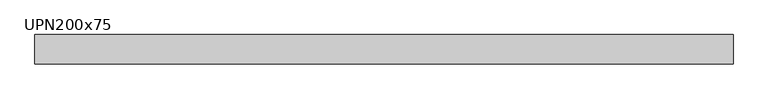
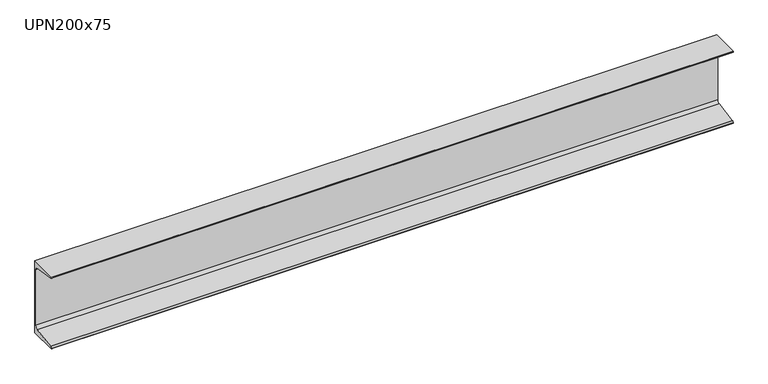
"""IFC4 building model written with IfcOpenShell, lengths in millimetres: beam geometry, M_MC Shapes : UPN200x75."""

from ifc_helpers import new_model, si_unit, point, frame, frame_2d, origin, place, context, project, spatial, polyline, circle_curve, trimmed, segment, composite_curve, outline, extrude, source, transform, mapped, element, save


def upn200x75_6adde346(model_context):
    return source(origin(), model_context, "Body", "SweptSolid", [
        extrude(outline(composite_curve([segment(polyline([(10.9, 100.0), (10.9, -100.0), (-64.1, -100.0), (-64.1, -99.0253247)]), True, "CONTINUOUS"), segment(trimmed(circle_curve(frame_2d((-60.15, -99.0253247)), 3.95), [point((-64.1, -99.0253247))], [point((-60.7993773, -95.1290689))], False, "CARTESIAN"), True, "CONTINUOUS"), segment(polyline([(-60.7993773, -95.1290689), (-0.2512455, -85.0376935)]), True, "CONTINUOUS"), segment(trimmed(circle_curve(frame_2d((-1.55, -77.2451819)), 7.9), [point((-0.2512455, -85.0376935))], [point((6.35, -77.2451819))], True, "CARTESIAN"), True, "CONTINUOUS"), segment(polyline([(6.35, -77.2451819), (6.35, 77.2451819)]), True, "CONTINUOUS"), segment(trimmed(circle_curve(frame_2d((-1.55, 77.2451819)), 7.9), [point((6.35, 77.2451819))], [point((-0.2512455, 85.0376935))], True, "CARTESIAN"), True, "CONTINUOUS"), segment(polyline([(-0.2512455, 85.0376935), (-60.7993773, 95.1290689)]), True, "CONTINUOUS"), segment(trimmed(circle_curve(frame_2d((-60.15, 99.0253247)), 3.95), [point((-60.7993773, 95.1290689))], [point((-64.1, 99.0253247))], False, "CARTESIAN"), True, "CONTINUOUS"), segment(polyline([(-64.1, 99.0253247), (-64.1, 100.0), (10.9, 100.0)]), True, "CONTINUOUS")], self_intersect=False)), frame((-934.85, 0.0, 0.0), z_axis=(1.0, 0.0, 0.0), x_axis=(0.0, 1.0, 0.0)), (0.0, 0.0, 1.0), 1794.2),
    ])


if __name__ == "__main__":
    model = new_model("IFC4")
    model_context = context("Model", 3, world=origin())
    ifc_project = project(units=[si_unit("LENGTHUNIT", "METRE", prefix="MILLI")], contexts=[model_context])
    site = spatial("IfcSite", under=ifc_project)
    building = spatial("IfcBuilding", under=site)
    placement = place(None, origin())
    upn200x75_shape = upn200x75_6adde346(model_context)
    element("IfcBeam", 1, ObjectType="M_MC Shapes : UPN200x75", at=placement, inside=building, context=model_context, shape_type="MappedRepresentation", body=[
        mapped(upn200x75_shape, transform((0.0, 0.0, 0.0), x_axis=(1.0, 0.0, 0.0), y_axis=(0.0, 1.0, 0.0), z_axis=(0.0, 0.0, 1.0))),
    ])
    save(model, "model.ifc")
